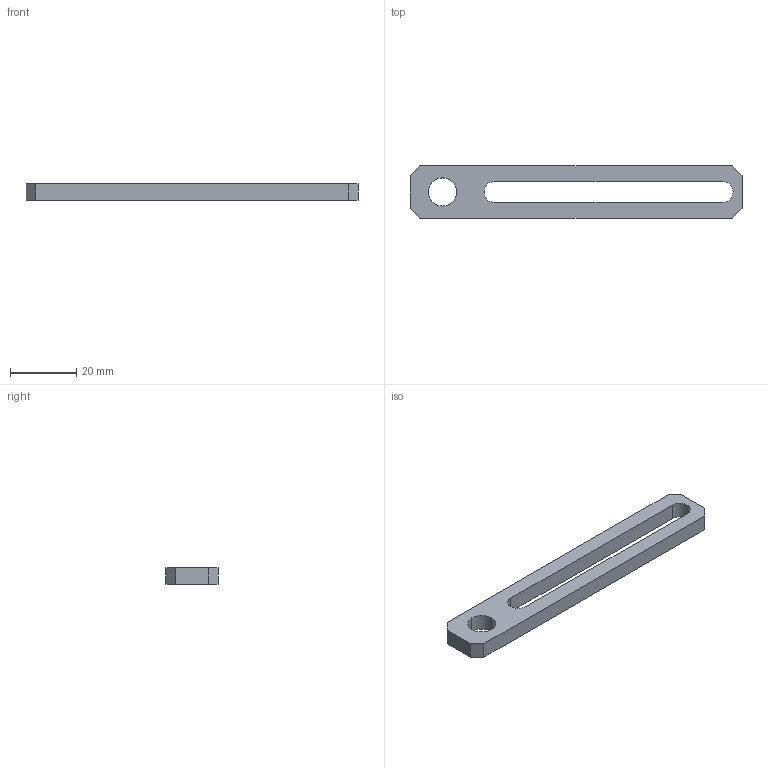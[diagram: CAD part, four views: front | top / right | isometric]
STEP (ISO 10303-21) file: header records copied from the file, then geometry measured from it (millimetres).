
FILE_DESCRIPTION (( 'STEP AP214' ), '1' );
FILE_NAME ('SCF3-70M10.STEP', '2019-11-11T00:53:05', ( '微软用户' ), ( '微软中国' ), 'SwSTEP 2.0', 'SolidWorks 2016', '' );
FILE_SCHEMA (( 'AUTOMOTIVE_DESIGN' ));
Length unit declared in the file: millimetre
Products named in the file (1): SCF3-70M10
Bounding box: 100 x 15.69 x 5 mm (x, y, z)
Volume: 5126.8 mm3; surface area: 4093 mm2
Topology: 1 solids, 1 shells, 17 faces, 45 edges, 30 vertices
Faces by surface type: plane 12, cylinder 5
Entity records: 571 total; most frequent: CARTESIAN_POINT 93, DIRECTION 91, ORIENTED_EDGE 90, EDGE_CURVE 45, VECTOR 35, LINE 35, VERTEX_POINT 30, AXIS2_PLACEMENT_3D 28
